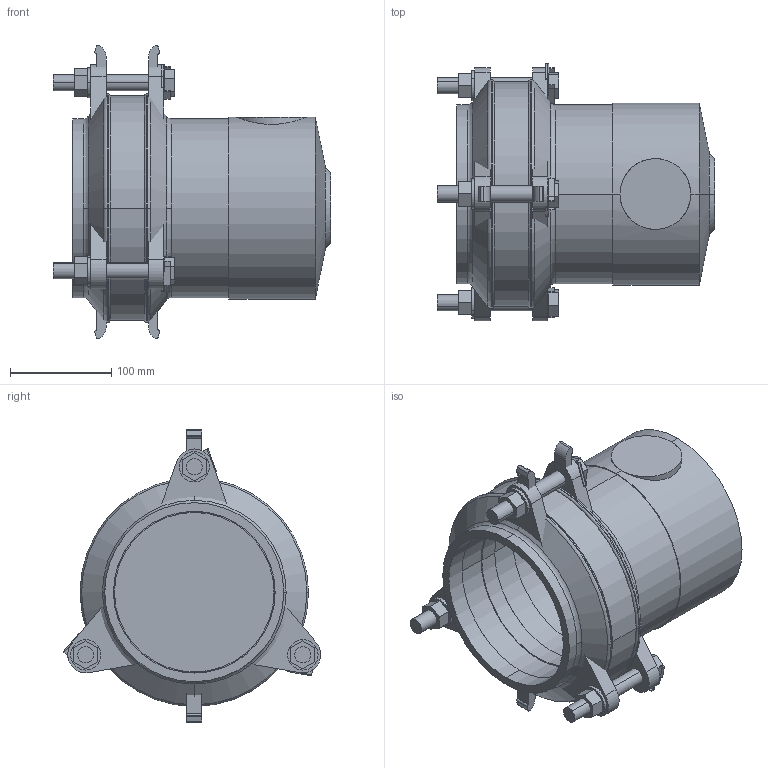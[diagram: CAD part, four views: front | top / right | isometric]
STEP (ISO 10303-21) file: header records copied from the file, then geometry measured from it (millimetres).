
FILE_DESCRIPTION(('STEP AP214'),'1');
FILE_NAME('HDA00047 DN 125.STP','2015-02-06T09:54:33',(' '),(' '),'Spatial InterOp 3D',' ',' ');
FILE_SCHEMA(('automotive_design'));
Length unit declared in the file: millimetre
Products named in the file (36): 3D-Objekt
Bounding box: 274 x 254.75 x 290 mm (x, y, z)
Volume: 2306591.3 mm3; surface area: 626968 mm2
Topology: 36 solids, 36 shells, 280 faces, 618 edges, 410 vertices
Faces by surface type: plane 183, cylinder 73, cone 12, torus 12
Entity records: 10957 total; most frequent: CARTESIAN_POINT 1475, DIRECTION 1450, ORIENTED_EDGE 1236, EDGE_CURVE 618, AXIS2_PLACEMENT_3D 518, LINE 414, VECTOR 414, VERTEX_POINT 410
